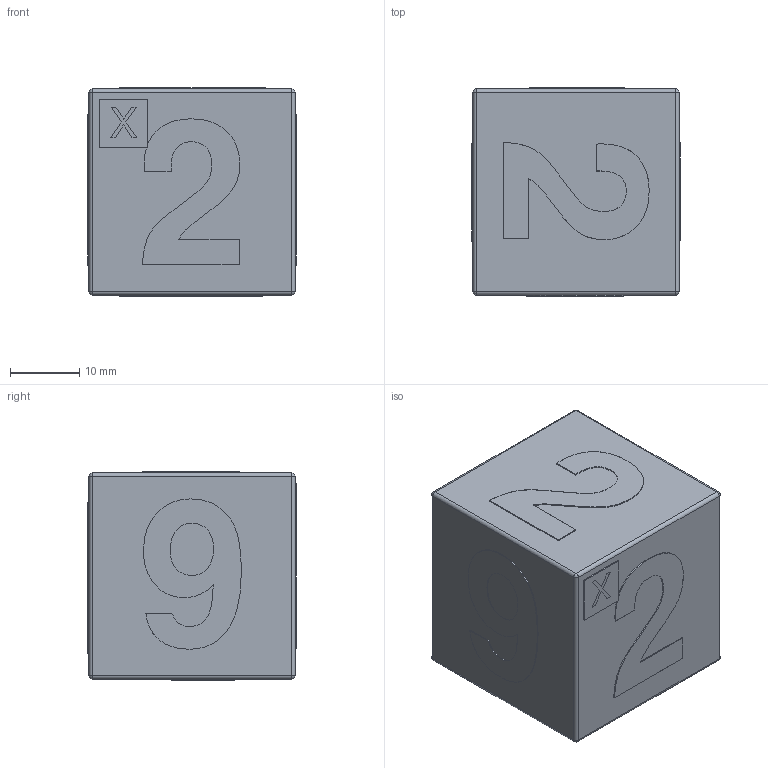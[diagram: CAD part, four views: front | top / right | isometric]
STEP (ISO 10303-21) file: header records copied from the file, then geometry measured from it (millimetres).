
FILE_DESCRIPTION(('Open CASCADE Model'),'2;1');
FILE_NAME('Open CASCADE Shape Model','2025-09-14T20:47:17',('Author'),( 'Open CASCADE'),'Open CASCADE STEP processor 7.8','Open CASCADE 7.8' ,'Unknown');
FILE_SCHEMA(('AUTOMOTIVE_DESIGN { 1 0 10303 214 1 1 1 1 }'));
Length unit declared in the file: millimetre
Products named in the file (20): 9e8b66ac-91a3-11f0-88d2-1c1b0deae66b; 9e8b6878-91a3-11f0-88d2-1c1b0deae66b; 9e8b6878-91a3-11f0-88d2-1c1b0deae66b_part; 9e955e14-91a3-11f0-88d2-1c1b0deae66b; 9e955e14-91a3-11f0-88d2-1c1b0deae66b_part; 9e975624-91a3-11f0-88d2-1c1b0deae66b; 9e975624-91a3-11f0-88d2-1c1b0deae66b_part; 9e9908b6-91a3-11f0-88d2-1c1b0deae66b; 9e9908b6-91a3-11f0-88d2-1c1b0deae66b_part; 9e9ad678-91a3-11f0-88d2-1c1b0deae66b; 9e9ad678-91a3-11f0-88d2-1c1b0deae66b_part; 9e9c459e-91a3-11f0-88d2-1c1b0deae66b; 9e9c459e-91a3-11f0-88d2-1c1b0deae66b_part; 9e9d60fa-91a3-11f0-88d2-1c1b0deae66b; 9e9d60fa-91a3-11f0-88d2-1c1b0deae66b_part; 9ea2e160-91a3-11f0-88d2-1c1b0deae66b; 9ea2e160-91a3-11f0-88d2-1c1b0deae66b_part; 9ea2e2e6-91a3-11f0-88d2-1c1b0deae66b; 9ea2e2e6-91a3-11f0-88d2-1c1b0deae66b_part
Assembly tree (19 placements, depth 4):
  9e8b66ac-91a3-11f0-88d2-1c1b0deae66b
    9e8b66ac-91a3-11f0-88d2-1c1b0deae66b
      9e8b6878-91a3-11f0-88d2-1c1b0deae66b
        9e8b6878-91a3-11f0-88d2-1c1b0deae66b_part
      9e955e14-91a3-11f0-88d2-1c1b0deae66b
        9e955e14-91a3-11f0-88d2-1c1b0deae66b_part
      9e975624-91a3-11f0-88d2-1c1b0deae66b
        9e975624-91a3-11f0-88d2-1c1b0deae66b_part
      9e9908b6-91a3-11f0-88d2-1c1b0deae66b
        9e9908b6-91a3-11f0-88d2-1c1b0deae66b_part
      9e9ad678-91a3-11f0-88d2-1c1b0deae66b
        9e9ad678-91a3-11f0-88d2-1c1b0deae66b_part
      9e9c459e-91a3-11f0-88d2-1c1b0deae66b
        9e9c459e-91a3-11f0-88d2-1c1b0deae66b_part
      9e9d60fa-91a3-11f0-88d2-1c1b0deae66b
        9e9d60fa-91a3-11f0-88d2-1c1b0deae66b_part
      9ea2e160-91a3-11f0-88d2-1c1b0deae66b
        9ea2e160-91a3-11f0-88d2-1c1b0deae66b_part
      9ea2e2e6-91a3-11f0-88d2-1c1b0deae66b
        9ea2e2e6-91a3-11f0-88d2-1c1b0deae66b_part
Bounding box: 30 x 30 x 30 mm (x, y, z)
Volume: 26329 mm3; surface area: 7307.8 mm2
Topology: 9 solids, 9 shells, 225 faces, 605 edges, 390 vertices
Faces by surface type: extrusion 114, plane 91, cylinder 12, sphere 8
Entity records: 15232 total; most frequent: CARTESIAN_POINT 3640, DIRECTION 1697, VECTOR 1387, LINE 1273, ORIENTED_EDGE 1194, PCURVE 1194, DEFINITIONAL_REPRESENTATION 1194, B_SPLINE_CURVE_WITH_KNOTS 608
